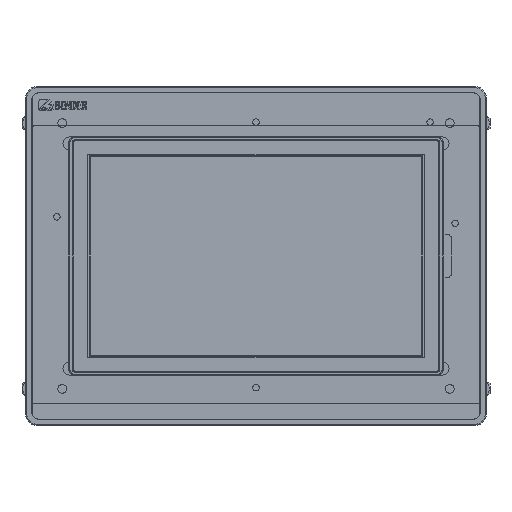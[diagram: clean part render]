
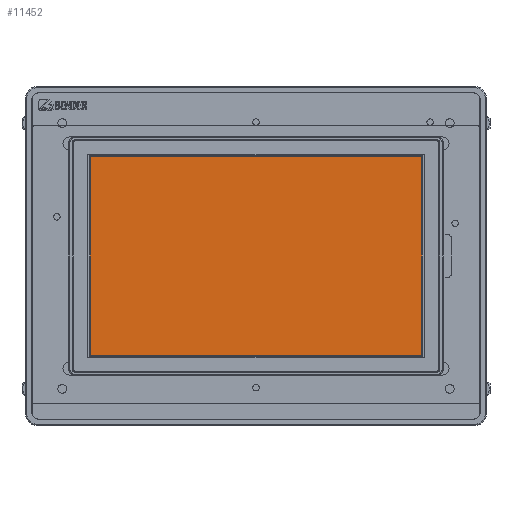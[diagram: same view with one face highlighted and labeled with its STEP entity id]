
A CAD part, front view. The second image highlights one B-rep face of the part: STEP entity #11452.
In plain terms, the highlighted planar face has unit normal (0, -1, 0).
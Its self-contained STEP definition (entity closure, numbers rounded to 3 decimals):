
#3154=DIRECTION('',(0.,0.,1.));
#3155=VECTOR('',#3154,91.4);
#3156=CARTESIAN_POINT('',(76.2,-4.4,-45.7));
#3157=LINE('',#3156,#3155);
#3158=DIRECTION('',(1.,0.,0.));
#3159=VECTOR('',#3158,152.4);
#3160=CARTESIAN_POINT('',(-76.2,-4.4,-45.7));
#3161=LINE('',#3160,#3159);
#3162=DIRECTION('',(0.,0.,-1.));
#3163=VECTOR('',#3162,91.4);
#3164=CARTESIAN_POINT('',(-76.2,-4.4,45.7));
#3165=LINE('',#3164,#3163);
#3166=DIRECTION('',(-1.,0.,0.));
#3167=VECTOR('',#3166,152.4);
#3168=CARTESIAN_POINT('',(76.2,-4.4,45.7));
#3169=LINE('',#3168,#3167);
#5431=CARTESIAN_POINT('',(76.2,-4.4,-45.7));
#5432=CARTESIAN_POINT('',(76.2,-4.4,45.7));
#5433=VERTEX_POINT('',#5431);
#5434=VERTEX_POINT('',#5432);
#5435=CARTESIAN_POINT('',(-76.2,-4.4,45.7));
#5436=VERTEX_POINT('',#5435);
#5437=CARTESIAN_POINT('',(-76.2,-4.4,-45.7));
#5438=VERTEX_POINT('',#5437);
#11441=CARTESIAN_POINT('',(0.,-4.4,0.));
#11442=DIRECTION('',(0.,-1.,0.));
#11443=DIRECTION('',(-1.,0.,0.));
#11444=AXIS2_PLACEMENT_3D('',#11441,#11442,#11443);
#11445=PLANE('',#11444);
#11446=ORIENTED_EDGE('',*,*,#11365,.F.);
#11447=ORIENTED_EDGE('',*,*,#11387,.F.);
#11448=ORIENTED_EDGE('',*,*,#11408,.F.);
#11449=ORIENTED_EDGE('',*,*,#11428,.F.);
#11450=EDGE_LOOP('',(#11446,#11447,#11448,#11449));
#11451=FACE_OUTER_BOUND('',#11450,.F.);
#11452=ADVANCED_FACE('',(#11451),#11445,.T.);
#11365=EDGE_CURVE('',#5433,#5434,#3157,.T.);
#11387=EDGE_CURVE('',#5438,#5433,#3161,.T.);
#11408=EDGE_CURVE('',#5436,#5438,#3165,.T.);
#11428=EDGE_CURVE('',#5434,#5436,#3169,.T.);
